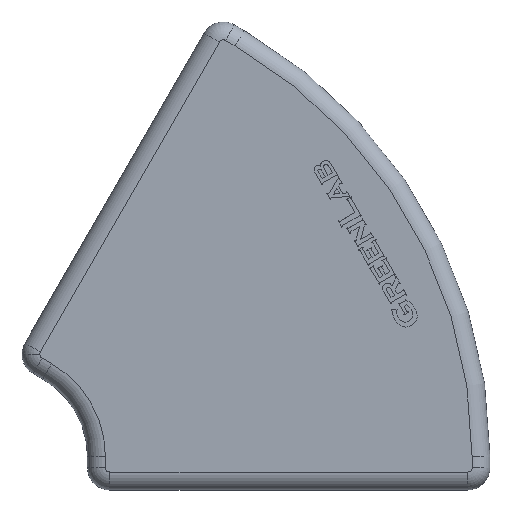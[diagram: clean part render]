
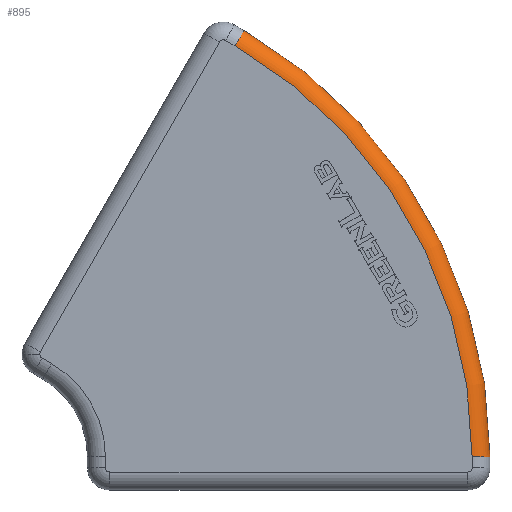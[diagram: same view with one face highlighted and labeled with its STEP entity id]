
A CAD part, top view. The second image highlights one B-rep face of the part: STEP entity #895.
In plain terms, the highlighted toroidal (fillet/blend) face has major radius 53 mm and minor radius 2 mm.
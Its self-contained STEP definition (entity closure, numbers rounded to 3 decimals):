
#287 = ORIENTED_EDGE ( 'NONE', *, *, #6518, .F. ) ;
#461 = TOROIDAL_SURFACE ( 'NONE', #1845, 53., 2. ) ;
#895 = ADVANCED_FACE ( 'NONE', ( #8434 ), #461, .T. ) ;
#1084 = EDGE_CURVE ( 'NONE', #6807, #10241, #2360, .T. ) ;
#1364 = DIRECTION ( 'NONE',  ( 1., 0., 0. ) ) ;
#1845 = AXIS2_PLACEMENT_3D ( 'NONE', #3556, #1946, #1364 ) ;
#1946 = DIRECTION ( 'NONE',  ( 0., 0., 1. ) ) ;
#2360 = CIRCLE ( 'NONE', #6115, 55. ) ;
#2410 = DIRECTION ( 'NONE',  ( -0.5, -0.866, 0. ) ) ;
#3226 = CIRCLE ( 'NONE', #8520, 2. ) ;
#3341 = DIRECTION ( 'NONE',  ( 0., 0., -1. ) ) ;
#3396 = DIRECTION ( 'NONE',  ( 1., 0., 0. ) ) ;
#3532 = AXIS2_PLACEMENT_3D ( 'NONE', #8994, #4780, #2410 ) ;
#3556 = CARTESIAN_POINT ( 'NONE',  ( -32.5, -18.764, 1. ) ) ;
#3760 = VERTEX_POINT ( 'NONE', #9908 ) ;
#4205 = CIRCLE ( 'NONE', #10169, 53. ) ;
#4775 = VERTEX_POINT ( 'NONE', #6502 ) ;
#4780 = DIRECTION ( 'NONE',  ( -0.866, 0.5, 0. ) ) ;
#4893 = CARTESIAN_POINT ( 'NONE',  ( -32.5, -18.764, 1. ) ) ;
#5063 = EDGE_CURVE ( 'NONE', #3760, #4775, #4205, .T. ) ;
#5071 = CIRCLE ( 'NONE', #3532, 2. ) ;
#5124 = CARTESIAN_POINT ( 'NONE',  ( 20.5, -18.764, 1. ) ) ;
#5418 = DIRECTION ( 'NONE',  ( 1., 0., 0. ) ) ;
#6115 = AXIS2_PLACEMENT_3D ( 'NONE', #4893, #3341, #3396 ) ;
#6502 = CARTESIAN_POINT ( 'NONE',  ( -6., 27.135, 3. ) ) ;
#6518 = EDGE_CURVE ( 'NONE', #4775, #6807, #5071, .T. ) ;
#6807 = VERTEX_POINT ( 'NONE', #9872 ) ;
#6912 = DIRECTION ( 'NONE',  ( 0., 0., 1. ) ) ;
#8379 = ORIENTED_EDGE ( 'NONE', *, *, #8816, .F. ) ;
#8394 = DIRECTION ( 'NONE',  ( 0., 0., -1. ) ) ;
#8434 = FACE_OUTER_BOUND ( 'NONE', #8952, .T. ) ;
#8468 = ORIENTED_EDGE ( 'NONE', *, *, #5063, .F. ) ;
#8490 = DIRECTION ( 'NONE',  ( 0., -1., 0. ) ) ;
#8520 = AXIS2_PLACEMENT_3D ( 'NONE', #5124, #8490, #8394 ) ;
#8816 = EDGE_CURVE ( 'NONE', #10241, #3760, #3226, .T. ) ;
#8952 = EDGE_LOOP ( 'NONE', ( #8379, #9176, #287, #8468 ) ) ;
#8992 = CARTESIAN_POINT ( 'NONE',  ( 22.5, -18.764, 1. ) ) ;
#8994 = CARTESIAN_POINT ( 'NONE',  ( -6., 27.135, 1. ) ) ;
#9176 = ORIENTED_EDGE ( 'NONE', *, *, #1084, .F. ) ;
#9680 = CARTESIAN_POINT ( 'NONE',  ( -32.5, -18.764, 3. ) ) ;
#9872 = CARTESIAN_POINT ( 'NONE',  ( -5., 28.867, 1. ) ) ;
#9908 = CARTESIAN_POINT ( 'NONE',  ( 20.5, -18.764, 3. ) ) ;
#10169 = AXIS2_PLACEMENT_3D ( 'NONE', #9680, #6912, #5418 ) ;
#10241 = VERTEX_POINT ( 'NONE', #8992 ) ;
